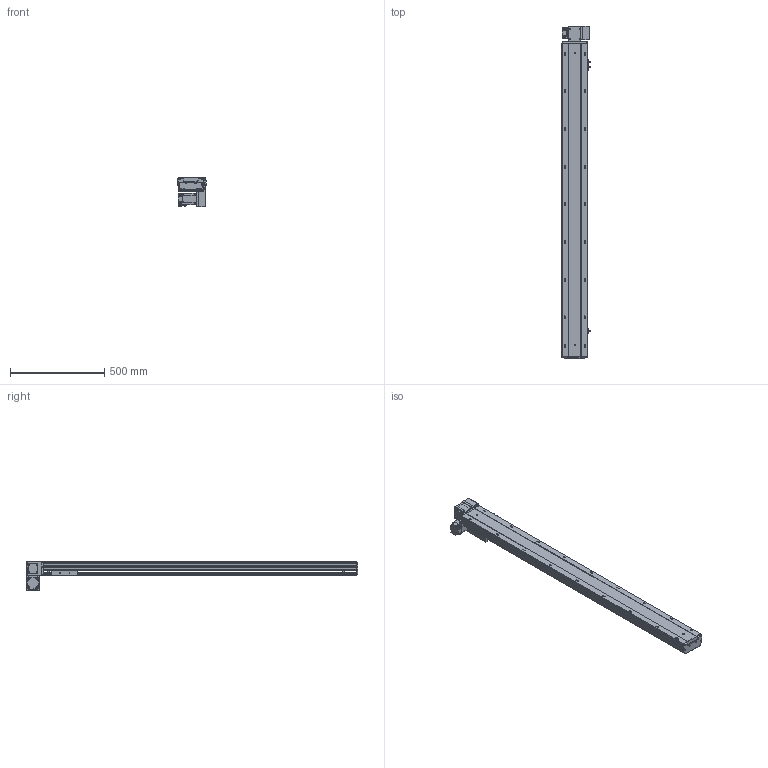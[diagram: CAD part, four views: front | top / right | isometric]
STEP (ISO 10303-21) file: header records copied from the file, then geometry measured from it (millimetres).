
FILE_DESCRIPTION (( 'STEP AP203' ), '1' );
FILE_NAME ('140.STEP', '2022-07-22T01:13:05', ( '' ), ( '' ), 'SwSTEP 2.0', 'SolidWorks 2016', '' );
FILE_SCHEMA (( 'CONFIG_CONTROL_DESIGN' ));
Length unit declared in the file: millimetre
Products named in the file (10): BTB14-L-02; BTB14-L-HZ; BTB14-L-24; BTB14-L-菁釱_XD; BTB14-L-01; BTB14-L-04; 140; BTB14-L-M40; BTB14-L-23; BTB14-L-06
Assembly tree (12 placements, depth 2):
  140
    BTB14-L-菁釱_XD
    BTB14-L-01
    BTB14-L-02
    BTB14-L-04  x3
    BTB14-L-06
    BTB14-L-23  x2
    BTB14-L-24
    BTB14-L-HZ
    BTB14-L-M40
Bounding box: 148.7 x 1762.5 x 156.7 mm (x, y, z)
Volume: 7889348.5 mm3; surface area: 1651332.6 mm2
Topology: 22 solids, 22 shells, 1642 faces, 4341 edges, 2764 vertices
Faces by surface type: plane 937, cylinder 480, cone 136, bspline 77, torus 12
Entity records: 43622 total; most frequent: CARTESIAN_POINT 10715, ORIENTED_EDGE 6580, DIRECTION 6556, EDGE_CURVE 3290, LINE 2230, VECTOR 2230, AXIS2_PLACEMENT_3D 2163, VERTEX_POINT 2142
